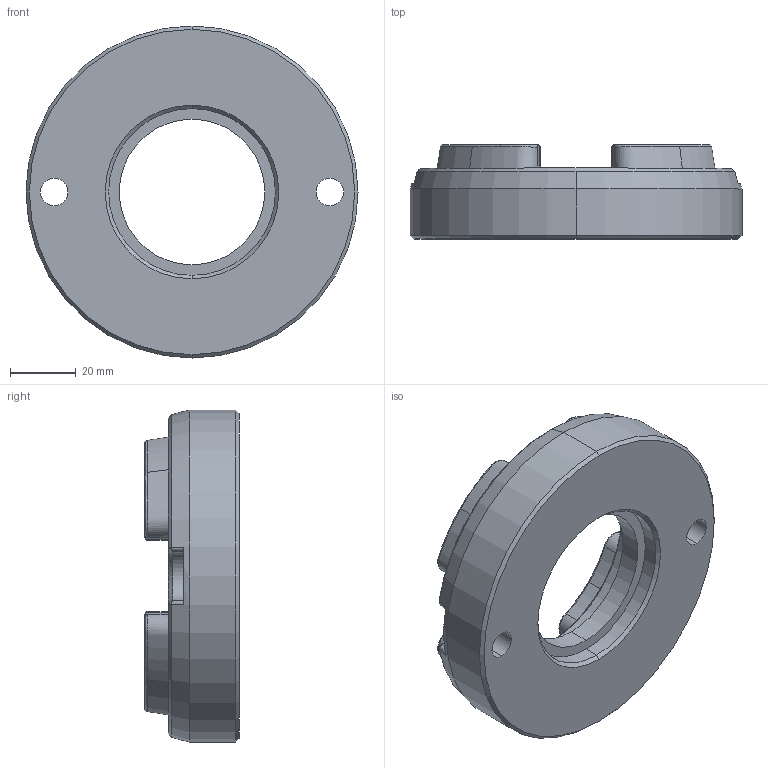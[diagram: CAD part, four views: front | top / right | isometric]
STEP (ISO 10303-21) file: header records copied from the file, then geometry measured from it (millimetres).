
FILE_DESCRIPTION (( 'STEP AP203' ), '1' );
FILE_NAME ('6524PG.STEP', '2020-03-19T12:40:04', ( '' ), ( '' ), 'SwSTEP 2.0', 'SolidWorks 2018', '' );
FILE_SCHEMA (( 'CONFIG_CONTROL_DESIGN' ));
Length unit declared in the file: inch
Products named in the file (1): 6524PG
Bounding box: 101.35 x 28.7 x 101.35 mm (x, y, z)
Volume: 132125.3 mm3; surface area: 25439.6 mm2
Topology: 1 solids, 2 shells, 226 faces, 574 edges, 367 vertices
Faces by surface type: plane 85, bspline 68, cylinder 38, torus 22, cone 13
Entity records: 13032 total; most frequent: CARTESIAN_POINT 7900, ORIENTED_EDGE 1148, DIRECTION 869, EDGE_CURVE 574, VERTEX_POINT 367, AXIS2_PLACEMENT_3D 292, LINE 285, VECTOR 285
